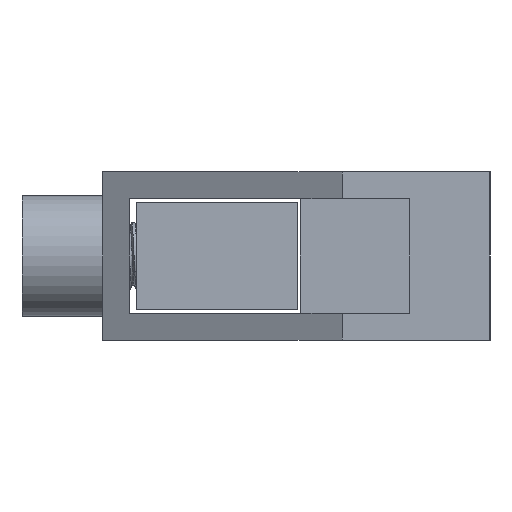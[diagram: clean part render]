
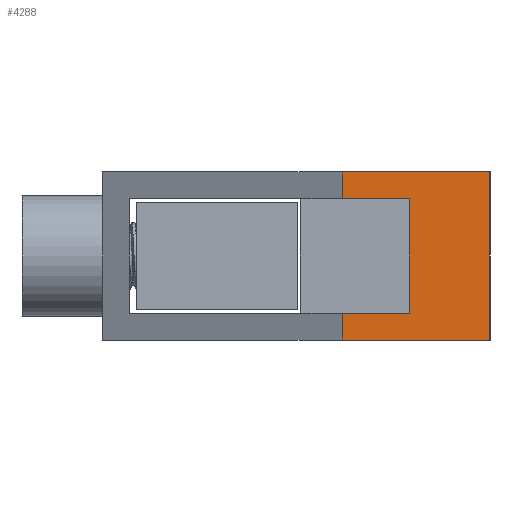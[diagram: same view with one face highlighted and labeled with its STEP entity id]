
A CAD part, left-side view. The second image highlights one B-rep face of the part: STEP entity #4288.
In plain terms, the highlighted planar face has unit normal (-1, 0, 0).
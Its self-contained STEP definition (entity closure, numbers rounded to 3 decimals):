
#67 = VECTOR ( 'NONE', #14369, 1000. ) ;
#156 = VERTEX_POINT ( 'NONE', #12639 ) ;
#195 = EDGE_CURVE ( 'NONE', #10223, #5160, #13936, .T. ) ;
#475 = ORIENTED_EDGE ( 'NONE', *, *, #14004, .F. ) ;
#683 = VERTEX_POINT ( 'NONE', #1879 ) ;
#914 = VECTOR ( 'NONE', #5698, 1000. ) ;
#1690 = EDGE_CURVE ( 'NONE', #5160, #2237, #6945, .T. ) ;
#1879 = CARTESIAN_POINT ( 'NONE',  ( -64.5, -17.8, 12.5 ) ) ;
#1895 = DIRECTION ( 'NONE',  ( 0., 0., -1. ) ) ;
#2164 = LINE ( 'NONE', #9720, #15002 ) ;
#2237 = VERTEX_POINT ( 'NONE', #6431 ) ;
#2573 = AXIS2_PLACEMENT_3D ( 'NONE', #5688, #9439, #1895 ) ;
#2661 = EDGE_LOOP ( 'NONE', ( #6354, #7219, #12589, #6633, #475, #14923, #12641, #14538 ) ) ;
#2701 = LINE ( 'NONE', #13140, #9386 ) ;
#3139 = CARTESIAN_POINT ( 'NONE',  ( -64.5, -11.8, 2. ) ) ;
#3178 = CARTESIAN_POINT ( 'NONE',  ( -64.5, -11.8, 10.5 ) ) ;
#3498 = LINE ( 'NONE', #3178, #67 ) ;
#3638 = VECTOR ( 'NONE', #15129, 1000. ) ;
#3687 = CARTESIAN_POINT ( 'NONE',  ( -64.5, -17.8, 2. ) ) ;
#3734 = VERTEX_POINT ( 'NONE', #14466 ) ;
#4221 = DIRECTION ( 'NONE',  ( 0., 0., -1. ) ) ;
#4288 = ADVANCED_FACE ( 'NONE', ( #10592 ), #4404, .F. ) ;
#4404 = PLANE ( 'NONE',  #2573 ) ;
#4697 = VERTEX_POINT ( 'NONE', #13791 ) ;
#4737 = DIRECTION ( 'NONE',  ( 0., -1., 0. ) ) ;
#5153 = LINE ( 'NONE', #11701, #11398 ) ;
#5160 = VERTEX_POINT ( 'NONE', #15698 ) ;
#5296 = CARTESIAN_POINT ( 'NONE',  ( -64.5, -17.8, 0. ) ) ;
#5658 = CARTESIAN_POINT ( 'NONE',  ( -64.5, -22.8, 10.5 ) ) ;
#5688 = CARTESIAN_POINT ( 'NONE',  ( -64.5, -17.8, 12.5 ) ) ;
#5698 = DIRECTION ( 'NONE',  ( 0., -1., 0. ) ) ;
#6354 = ORIENTED_EDGE ( 'NONE', *, *, #8441, .F. ) ;
#6357 = EDGE_CURVE ( 'NONE', #683, #156, #2164, .T. ) ;
#6431 = CARTESIAN_POINT ( 'NONE',  ( -64.5, -28.8, 0. ) ) ;
#6633 = ORIENTED_EDGE ( 'NONE', *, *, #1690, .T. ) ;
#6673 = LINE ( 'NONE', #10281, #12502 ) ;
#6945 = LINE ( 'NONE', #5296, #10244 ) ;
#7219 = ORIENTED_EDGE ( 'NONE', *, *, #10004, .F. ) ;
#7654 = LINE ( 'NONE', #3139, #914 ) ;
#7813 = DIRECTION ( 'NONE',  ( 0., -1., 0. ) ) ;
#8441 = EDGE_CURVE ( 'NONE', #3734, #8584, #6673, .T. ) ;
#8584 = VERTEX_POINT ( 'NONE', #5658 ) ;
#8630 = EDGE_CURVE ( 'NONE', #683, #4697, #2701, .T. ) ;
#9027 = DIRECTION ( 'NONE',  ( 0., 0., 1. ) ) ;
#9386 = VECTOR ( 'NONE', #14302, 1000. ) ;
#9439 = DIRECTION ( 'NONE',  ( 1., 0., 0. ) ) ;
#9720 = CARTESIAN_POINT ( 'NONE',  ( -64.5, -17.8, 12.5 ) ) ;
#10004 = EDGE_CURVE ( 'NONE', #10223, #3734, #7654, .T. ) ;
#10223 = VERTEX_POINT ( 'NONE', #3687 ) ;
#10244 = VECTOR ( 'NONE', #7813, 1000. ) ;
#10281 = CARTESIAN_POINT ( 'NONE',  ( -64.5, -22.8, 2. ) ) ;
#10592 = FACE_OUTER_BOUND ( 'NONE', #2661, .T. ) ;
#10640 = EDGE_CURVE ( 'NONE', #8584, #4697, #3498, .T. ) ;
#11398 = VECTOR ( 'NONE', #4221, 1000. ) ;
#11701 = CARTESIAN_POINT ( 'NONE',  ( -64.5, -28.8, 12.5 ) ) ;
#12502 = VECTOR ( 'NONE', #9027, 1000. ) ;
#12589 = ORIENTED_EDGE ( 'NONE', *, *, #195, .T. ) ;
#12639 = CARTESIAN_POINT ( 'NONE',  ( -64.5, -28.8, 12.5 ) ) ;
#12641 = ORIENTED_EDGE ( 'NONE', *, *, #8630, .T. ) ;
#13140 = CARTESIAN_POINT ( 'NONE',  ( -64.5, -17.8, 12.5 ) ) ;
#13791 = CARTESIAN_POINT ( 'NONE',  ( -64.5, -17.8, 10.5 ) ) ;
#13936 = LINE ( 'NONE', #15285, #3638 ) ;
#14004 = EDGE_CURVE ( 'NONE', #156, #2237, #5153, .T. ) ;
#14302 = DIRECTION ( 'NONE',  ( 0., 0., -1. ) ) ;
#14369 = DIRECTION ( 'NONE',  ( 0., 1., 0. ) ) ;
#14466 = CARTESIAN_POINT ( 'NONE',  ( -64.5, -22.8, 2. ) ) ;
#14538 = ORIENTED_EDGE ( 'NONE', *, *, #10640, .F. ) ;
#14923 = ORIENTED_EDGE ( 'NONE', *, *, #6357, .F. ) ;
#15002 = VECTOR ( 'NONE', #4737, 1000. ) ;
#15129 = DIRECTION ( 'NONE',  ( 0., 0., -1. ) ) ;
#15285 = CARTESIAN_POINT ( 'NONE',  ( -64.5, -17.8, 12.5 ) ) ;
#15698 = CARTESIAN_POINT ( 'NONE',  ( -64.5, -17.8, 0. ) ) ;
